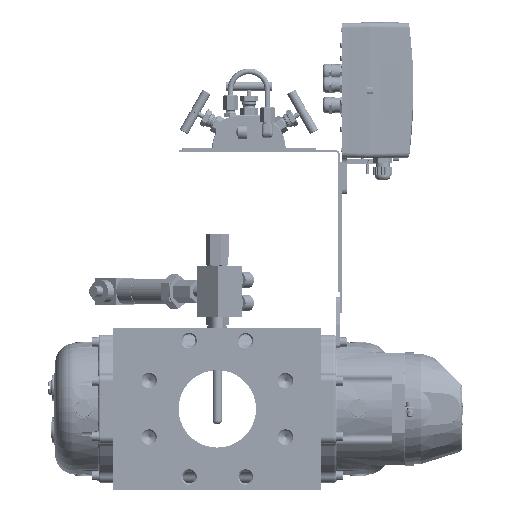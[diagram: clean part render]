
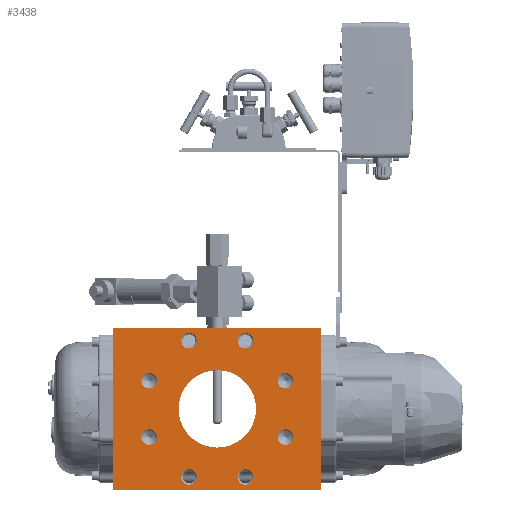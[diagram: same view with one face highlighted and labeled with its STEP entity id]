
A CAD part, front view. The second image highlights one B-rep face of the part: STEP entity #3438.
In plain terms, the highlighted planar face has unit normal (0, -1, 0).
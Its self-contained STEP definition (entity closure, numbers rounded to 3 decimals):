
#3438=ADVANCED_FACE('',(#282035,#282037,#282039,#282041,#282043,#282045,#282047,
#282049,#282051,#282053),#282055,.T.);
#282035=FACE_BOUND('',#282036,.T.);
#282036=EDGE_LOOP('',(#562073,#562074,#562075,#562076));
#282037=FACE_BOUND('',#282038,.T.);
#282038=EDGE_LOOP('',(#562077));
#282039=FACE_BOUND('',#282040,.T.);
#282040=EDGE_LOOP('',(#562078));
#282041=FACE_BOUND('',#282042,.T.);
#282042=EDGE_LOOP('',(#562079));
#282043=FACE_BOUND('',#282044,.T.);
#282044=EDGE_LOOP('',(#562080));
#282045=FACE_BOUND('',#282046,.T.);
#282046=EDGE_LOOP('',(#562081));
#282047=FACE_BOUND('',#282048,.T.);
#282048=EDGE_LOOP('',(#562082));
#282049=FACE_BOUND('',#282050,.T.);
#282050=EDGE_LOOP('',(#562083));
#282051=FACE_BOUND('',#282052,.T.);
#282052=EDGE_LOOP('',(#562084));
#282053=FACE_BOUND('',#282054,.T.);
#282054=EDGE_LOOP('',(#562085));
#282055=PLANE('',#282056);
#282056=AXIS2_PLACEMENT_3D('',#282057,#282058,#282059);
#282057=CARTESIAN_POINT('',(-112.75,-85.5,88.));
#282058=DIRECTION('',(0.,-1.,0.));
#282059=DIRECTION('',(0.,0.,-1.));
#562073=ORIENTED_EDGE('',*,*,#775342,.T.);
#562074=ORIENTED_EDGE('',*,*,#775411,.T.);
#562075=ORIENTED_EDGE('',*,*,#775302,.T.);
#562076=ORIENTED_EDGE('',*,*,#775410,.F.);
#562077=ORIENTED_EDGE('',*,*,#775412,.T.);
#562078=ORIENTED_EDGE('',*,*,#775413,.T.);
#562079=ORIENTED_EDGE('',*,*,#775414,.T.);
#562080=ORIENTED_EDGE('',*,*,#775415,.T.);
#562081=ORIENTED_EDGE('',*,*,#775416,.T.);
#562082=ORIENTED_EDGE('',*,*,#775417,.T.);
#562083=ORIENTED_EDGE('',*,*,#775418,.T.);
#562084=ORIENTED_EDGE('',*,*,#775419,.T.);
#562085=ORIENTED_EDGE('',*,*,#775420,.T.);
#775302=EDGE_CURVE('',#864967,#864965,#864968,.T.);
#775342=EDGE_CURVE('',#865044,#865042,#865045,.T.);
#775410=EDGE_CURVE('',#865044,#864965,#865159,.T.);
#775411=EDGE_CURVE('',#865042,#864967,#865160,.T.);
#775412=EDGE_CURVE('',#865161,#865161,#865162,.T.);
#775413=EDGE_CURVE('',#865163,#865163,#865164,.T.);
#775414=EDGE_CURVE('',#865165,#865165,#865166,.T.);
#775415=EDGE_CURVE('',#865167,#865167,#865168,.T.);
#775416=EDGE_CURVE('',#865169,#865169,#865170,.T.);
#775417=EDGE_CURVE('',#865171,#865171,#865172,.T.);
#775418=EDGE_CURVE('',#865173,#865173,#865174,.T.);
#775419=EDGE_CURVE('',#865175,#865175,#865176,.T.);
#775420=EDGE_CURVE('',#865177,#865177,#865178,.T.);
#864965=VERTEX_POINT('',#1015015);
#864967=VERTEX_POINT('',#1015019);
#864968=LINE('',#1015020,#1015021);
#865042=VERTEX_POINT('',#1015199);
#865044=VERTEX_POINT('',#1015203);
#865045=LINE('',#1015204,#1015205);
#865159=LINE('',#1016398,#1016399);
#865160=LINE('',#1016401,#1016402);
#865161=VERTEX_POINT('',#1016404);
#865162=CIRCLE('',#1016405,8.417);
#865163=VERTEX_POINT('',#1016409);
#865164=CIRCLE('',#1016410,8.417);
#865165=VERTEX_POINT('',#1016414);
#865166=CIRCLE('',#1016415,8.417);
#865167=VERTEX_POINT('',#1016419);
#865168=CIRCLE('',#1016420,8.417);
#865169=VERTEX_POINT('',#1016424);
#865170=CIRCLE('',#1016425,8.417);
#865171=VERTEX_POINT('',#1016429);
#865172=CIRCLE('',#1016430,8.417);
#865173=VERTEX_POINT('',#1016434);
#865174=CIRCLE('',#1016435,8.417);
#865175=VERTEX_POINT('',#1016439);
#865176=CIRCLE('',#1016440,42.);
#865177=VERTEX_POINT('',#1016444);
#865178=CIRCLE('',#1016445,8.417);
#1015015=CARTESIAN_POINT('',(112.75,-85.5,88.));
#1015019=CARTESIAN_POINT('',(112.75,-85.5,-88.));
#1015020=CARTESIAN_POINT('',(112.75,-85.5,-88.));
#1015021=VECTOR('',#1015022,1.);
#1015022=DIRECTION('',(0.,0.,1.));
#1015199=CARTESIAN_POINT('',(-112.75,-85.5,-88.));
#1015203=CARTESIAN_POINT('',(-112.75,-85.5,88.));
#1015204=CARTESIAN_POINT('',(-112.75,-85.5,88.));
#1015205=VECTOR('',#1015206,1.);
#1015206=DIRECTION('',(0.,0.,-1.));
#1016398=CARTESIAN_POINT('',(-112.75,-85.5,88.));
#1016399=VECTOR('',#1016400,1.);
#1016400=DIRECTION('',(1.,0.,0.));
#1016401=CARTESIAN_POINT('',(-112.75,-85.5,-88.));
#1016402=VECTOR('',#1016403,1.);
#1016403=DIRECTION('',(1.,0.,0.));
#1016404=CARTESIAN_POINT('',(82.328,-85.5,30.615));
#1016405=AXIS2_PLACEMENT_3D('',#1016406,#1016407,#1016408);
#1016406=CARTESIAN_POINT('',(73.91,-85.5,30.615));
#1016407=DIRECTION('',(0.,1.,0.));
#1016408=DIRECTION('',(1.,0.,0.));
#1016409=CARTESIAN_POINT('',(82.328,-85.5,-30.615));
#1016410=AXIS2_PLACEMENT_3D('',#1016411,#1016412,#1016413);
#1016411=CARTESIAN_POINT('',(73.91,-85.5,-30.615));
#1016412=DIRECTION('',(0.,1.,0.));
#1016413=DIRECTION('',(1.,0.,0.));
#1016414=CARTESIAN_POINT('',(-22.197,-85.5,-73.91));
#1016415=AXIS2_PLACEMENT_3D('',#1016416,#1016417,#1016418);
#1016416=CARTESIAN_POINT('',(-30.615,-85.5,-73.91));
#1016417=DIRECTION('',(0.,1.,0.));
#1016418=DIRECTION('',(1.,0.,0.));
#1016419=CARTESIAN_POINT('',(39.032,-85.5,73.91));
#1016420=AXIS2_PLACEMENT_3D('',#1016421,#1016422,#1016423);
#1016421=CARTESIAN_POINT('',(30.615,-85.5,73.91));
#1016422=DIRECTION('',(0.,1.,0.));
#1016423=DIRECTION('',(1.,0.,0.));
#1016424=CARTESIAN_POINT('',(-22.197,-85.5,73.91));
#1016425=AXIS2_PLACEMENT_3D('',#1016426,#1016427,#1016428);
#1016426=CARTESIAN_POINT('',(-30.615,-85.5,73.91));
#1016427=DIRECTION('',(0.,1.,0.));
#1016428=DIRECTION('',(1.,0.,0.));
#1016429=CARTESIAN_POINT('',(-65.493,-85.5,-30.615));
#1016430=AXIS2_PLACEMENT_3D('',#1016431,#1016432,#1016433);
#1016431=CARTESIAN_POINT('',(-73.91,-85.5,-30.615));
#1016432=DIRECTION('',(0.,1.,0.));
#1016433=DIRECTION('',(1.,0.,0.));
#1016434=CARTESIAN_POINT('',(39.032,-85.5,-73.91));
#1016435=AXIS2_PLACEMENT_3D('',#1016436,#1016437,#1016438);
#1016436=CARTESIAN_POINT('',(30.615,-85.5,-73.91));
#1016437=DIRECTION('',(0.,1.,0.));
#1016438=DIRECTION('',(1.,0.,0.));
#1016439=CARTESIAN_POINT('',(-42.,-85.5,0.));
#1016440=AXIS2_PLACEMENT_3D('',#1016441,#1016442,#1016443);
#1016441=CARTESIAN_POINT('',(0.,-85.5,0.));
#1016442=DIRECTION('',(0.,1.,0.));
#1016443=DIRECTION('',(-1.,0.,0.));
#1016444=CARTESIAN_POINT('',(-65.493,-85.5,30.615));
#1016445=AXIS2_PLACEMENT_3D('',#1016446,#1016447,#1016448);
#1016446=CARTESIAN_POINT('',(-73.91,-85.5,30.615));
#1016447=DIRECTION('',(0.,1.,0.));
#1016448=DIRECTION('',(1.,0.,0.));
